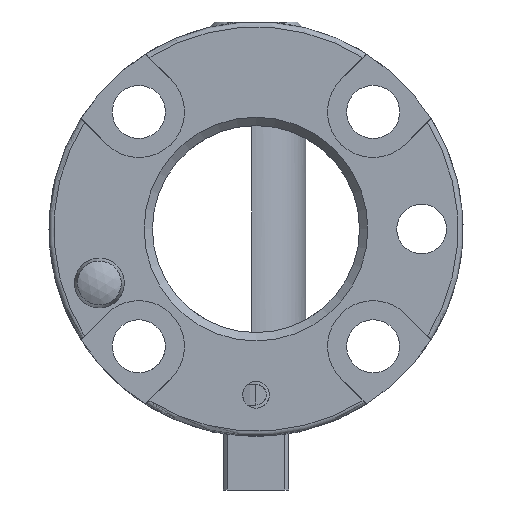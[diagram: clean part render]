
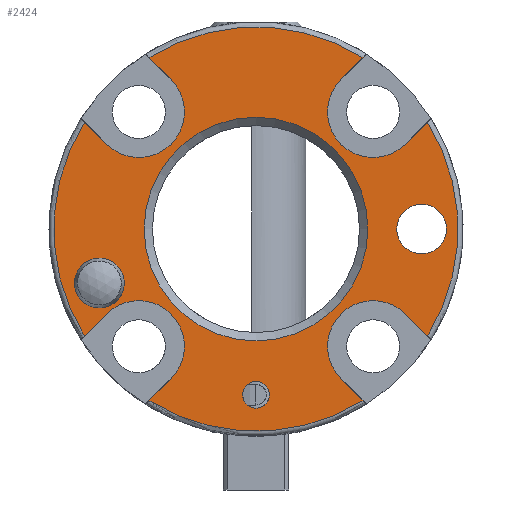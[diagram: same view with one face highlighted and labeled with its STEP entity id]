
A CAD part, front view. The second image highlights one B-rep face of the part: STEP entity #2424.
In plain terms, the highlighted planar face has unit normal (0, -1, 0).
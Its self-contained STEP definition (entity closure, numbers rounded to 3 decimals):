
#84=CARTESIAN_POINT('',(-18.91,8.,-9.511));
#85=VERTEX_POINT('',#84);
#86=CARTESIAN_POINT('',(-18.91,8.,-6.511));
#87=DIRECTION('',(0.0,1.0,0.0));
#88=DIRECTION('',(0.0,0.0,-1.0));
#89=AXIS2_PLACEMENT_3D('',#86,#87,#88);
#90=CIRCLE('',#89,3.);
#91=EDGE_CURVE('',#85,#85,#90,.T.);
#2189=CARTESIAN_POINT('',(-20.698,8.,-12.92));
#2190=VERTEX_POINT('',#2189);
#2204=CARTESIAN_POINT('',(-20.698,8.,12.92));
#2205=VERTEX_POINT('',#2204);
#2206=CARTESIAN_POINT('',(0.,8.0,0.0));
#2207=DIRECTION('',(0.0,1.0,0.0));
#2208=DIRECTION('',(-1.0,0.0,0.0));
#2209=AXIS2_PLACEMENT_3D('',#2206,#2207,#2208);
#2210=CIRCLE('',#2209,24.4);
#2211=EDGE_CURVE('',#2190,#2205,#2210,.T.);
#2236=CARTESIAN_POINT('',(-18.031,8.,10.253));
#2237=VERTEX_POINT('',#2236);
#2238=CARTESIAN_POINT('',(-18.031,8.,10.253));
#2239=DIRECTION('',(-0.707,0.,0.707));
#2240=VECTOR('',#2239,3.772);
#2241=LINE('',#2238,#2240);
#2242=EDGE_CURVE('',#2237,#2205,#2241,.T.);
#2262=CARTESIAN_POINT('',(0.,8.0,0.0));
#2263=DIRECTION('',(0.0,-1.0,0.0));
#2264=DIRECTION('',(0.0,0.0,-1.0));
#2265=AXIS2_PLACEMENT_3D('',#2262,#2263,#2264);
#2266=PLANE('',#2265);
#2267=ORIENTED_EDGE('',*,*,#2211,.F.);
#2268=CARTESIAN_POINT('',(-18.031,8.,-10.253));
#2269=VERTEX_POINT('',#2268);
#2270=CARTESIAN_POINT('',(-20.698,8.,-12.92));
#2271=DIRECTION('',(0.707,0.,0.707));
#2272=VECTOR('',#2271,3.772);
#2273=LINE('',#2270,#2272);
#2274=EDGE_CURVE('',#2190,#2269,#2273,.T.);
#2275=ORIENTED_EDGE('',*,*,#2274,.T.);
#2276=CARTESIAN_POINT('',(-10.253,8.,-18.031));
#2277=VERTEX_POINT('',#2276);
#2278=CARTESIAN_POINT('',(-14.142,8.,-14.142));
#2279=DIRECTION('',(0.0,1.0,0.0));
#2280=DIRECTION('',(0.0,0.0,1.0));
#2281=AXIS2_PLACEMENT_3D('',#2278,#2279,#2280);
#2282=CIRCLE('',#2281,5.5);
#2283=EDGE_CURVE('',#2269,#2277,#2282,.T.);
#2284=ORIENTED_EDGE('',*,*,#2283,.T.);
#2285=CARTESIAN_POINT('',(-12.92,8.,-20.698));
#2286=VERTEX_POINT('',#2285);
#2287=CARTESIAN_POINT('',(-10.253,8.,-18.031));
#2288=DIRECTION('',(-0.707,0.,-0.707));
#2289=VECTOR('',#2288,3.772);
#2290=LINE('',#2287,#2289);
#2291=EDGE_CURVE('',#2277,#2286,#2290,.T.);
#2292=ORIENTED_EDGE('',*,*,#2291,.T.);
#2293=CARTESIAN_POINT('',(12.92,8.,-20.698));
#2294=VERTEX_POINT('',#2293);
#2295=CARTESIAN_POINT('',(0.,8.0,0.0));
#2296=DIRECTION('',(0.0,1.0,0.0));
#2297=DIRECTION('',(0.0,0.0,-1.0));
#2298=AXIS2_PLACEMENT_3D('',#2295,#2296,#2297);
#2299=CIRCLE('',#2298,24.4);
#2300=EDGE_CURVE('',#2294,#2286,#2299,.T.);
#2301=ORIENTED_EDGE('',*,*,#2300,.F.);
#2302=CARTESIAN_POINT('',(10.253,8.,-18.031));
#2303=VERTEX_POINT('',#2302);
#2304=CARTESIAN_POINT('',(12.92,8.,-20.698));
#2305=DIRECTION('',(-0.707,0.,0.707));
#2306=VECTOR('',#2305,3.772);
#2307=LINE('',#2304,#2306);
#2308=EDGE_CURVE('',#2294,#2303,#2307,.T.);
#2309=ORIENTED_EDGE('',*,*,#2308,.T.);
#2310=CARTESIAN_POINT('',(18.031,8.,-10.253));
#2311=VERTEX_POINT('',#2310);
#2312=CARTESIAN_POINT('',(14.142,8.,-14.142));
#2313=DIRECTION('',(0.0,1.0,0.0));
#2314=DIRECTION('',(-1.0,0.0,0.0));
#2315=AXIS2_PLACEMENT_3D('',#2312,#2313,#2314);
#2316=CIRCLE('',#2315,5.5);
#2317=EDGE_CURVE('',#2303,#2311,#2316,.T.);
#2318=ORIENTED_EDGE('',*,*,#2317,.T.);
#2319=CARTESIAN_POINT('',(20.698,8.,-12.92));
#2320=VERTEX_POINT('',#2319);
#2321=CARTESIAN_POINT('',(18.031,8.,-10.253));
#2322=DIRECTION('',(0.707,0.,-0.707));
#2323=VECTOR('',#2322,3.772);
#2324=LINE('',#2321,#2323);
#2325=EDGE_CURVE('',#2311,#2320,#2324,.T.);
#2326=ORIENTED_EDGE('',*,*,#2325,.T.);
#2327=CARTESIAN_POINT('',(20.698,8.,12.92));
#2328=VERTEX_POINT('',#2327);
#2329=CARTESIAN_POINT('',(0.,8.0,0.0));
#2330=DIRECTION('',(0.0,1.0,0.0));
#2331=DIRECTION('',(1.0,0.0,0.0));
#2332=AXIS2_PLACEMENT_3D('',#2329,#2330,#2331);
#2333=CIRCLE('',#2332,24.4);
#2334=EDGE_CURVE('',#2328,#2320,#2333,.T.);
#2335=ORIENTED_EDGE('',*,*,#2334,.F.);
#2336=CARTESIAN_POINT('',(18.031,8.,10.253));
#2337=VERTEX_POINT('',#2336);
#2338=CARTESIAN_POINT('',(20.698,8.,12.92));
#2339=DIRECTION('',(-0.707,0.,-0.707));
#2340=VECTOR('',#2339,3.772);
#2341=LINE('',#2338,#2340);
#2342=EDGE_CURVE('',#2328,#2337,#2341,.T.);
#2343=ORIENTED_EDGE('',*,*,#2342,.T.);
#2344=CARTESIAN_POINT('',(10.253,8.,18.031));
#2345=VERTEX_POINT('',#2344);
#2346=CARTESIAN_POINT('',(14.142,8.,14.142));
#2347=DIRECTION('',(0.0,1.0,0.0));
#2348=DIRECTION('',(0.0,0.0,-1.0));
#2349=AXIS2_PLACEMENT_3D('',#2346,#2347,#2348);
#2350=CIRCLE('',#2349,5.5);
#2351=EDGE_CURVE('',#2337,#2345,#2350,.T.);
#2352=ORIENTED_EDGE('',*,*,#2351,.T.);
#2353=CARTESIAN_POINT('',(12.92,8.,20.698));
#2354=VERTEX_POINT('',#2353);
#2355=CARTESIAN_POINT('',(10.253,8.,18.031));
#2356=DIRECTION('',(0.707,0.0,0.707));
#2357=VECTOR('',#2356,3.772);
#2358=LINE('',#2355,#2357);
#2359=EDGE_CURVE('',#2345,#2354,#2358,.T.);
#2360=ORIENTED_EDGE('',*,*,#2359,.T.);
#2361=CARTESIAN_POINT('',(-12.92,8.,20.698));
#2362=VERTEX_POINT('',#2361);
#2363=CARTESIAN_POINT('',(0.,8.0,0.0));
#2364=DIRECTION('',(0.0,1.0,0.0));
#2365=DIRECTION('',(0.0,0.0,1.0));
#2366=AXIS2_PLACEMENT_3D('',#2363,#2364,#2365);
#2367=CIRCLE('',#2366,24.4);
#2368=EDGE_CURVE('',#2362,#2354,#2367,.T.);
#2369=ORIENTED_EDGE('',*,*,#2368,.F.);
#2370=CARTESIAN_POINT('',(-10.253,8.,18.031));
#2371=VERTEX_POINT('',#2370);
#2372=CARTESIAN_POINT('',(-12.92,8.,20.698));
#2373=DIRECTION('',(0.707,0.,-0.707));
#2374=VECTOR('',#2373,3.772);
#2375=LINE('',#2372,#2374);
#2376=EDGE_CURVE('',#2362,#2371,#2375,.T.);
#2377=ORIENTED_EDGE('',*,*,#2376,.T.);
#2378=CARTESIAN_POINT('',(-14.142,8.,14.142));
#2379=DIRECTION('',(0.0,1.0,0.0));
#2380=DIRECTION('',(1.0,0.0,0.0));
#2381=AXIS2_PLACEMENT_3D('',#2378,#2379,#2380);
#2382=CIRCLE('',#2381,5.5);
#2383=EDGE_CURVE('',#2371,#2237,#2382,.T.);
#2384=ORIENTED_EDGE('',*,*,#2383,.T.);
#2385=ORIENTED_EDGE('',*,*,#2242,.T.);
#2386=EDGE_LOOP('',(#2267,#2275,#2284,#2292,#2301,#2309,#2318,#2326,#2335,#2343,#2352,#2360,#2369,#2377,#2384,#2385));
#2387=FACE_OUTER_BOUND('',#2386,.T.);
#2388=ORIENTED_EDGE('',*,*,#91,.T.);
#2389=EDGE_LOOP('',(#2388));
#2390=FACE_BOUND('',#2389,.T.);
#2391=CARTESIAN_POINT('',(20.,8.,-3.));
#2392=VERTEX_POINT('',#2391);
#2393=CARTESIAN_POINT('',(20.,8.,0.));
#2394=DIRECTION('',(0.0,1.0,0.0));
#2395=DIRECTION('',(0.0,0.0,1.0));
#2396=AXIS2_PLACEMENT_3D('',#2393,#2394,#2395);
#2397=CIRCLE('',#2396,3.);
#2398=EDGE_CURVE('',#2392,#2392,#2397,.T.);
#2399=ORIENTED_EDGE('',*,*,#2398,.T.);
#2400=EDGE_LOOP('',(#2399));
#2401=FACE_BOUND('',#2400,.T.);
#2402=CARTESIAN_POINT('',(0.,8.,-21.621));
#2403=VERTEX_POINT('',#2402);
#2404=CARTESIAN_POINT('',(0.,8.,-20.0));
#2405=DIRECTION('',(0.0,1.0,0.0));
#2406=DIRECTION('',(0.0,0.0,1.0));
#2407=AXIS2_PLACEMENT_3D('',#2404,#2405,#2406);
#2408=CIRCLE('',#2407,1.621);
#2409=EDGE_CURVE('',#2403,#2403,#2408,.T.);
#2410=ORIENTED_EDGE('',*,*,#2409,.T.);
#2411=EDGE_LOOP('',(#2410));
#2412=FACE_BOUND('',#2411,.T.);
#2413=CARTESIAN_POINT('',(0.,8.0,13.5));
#2414=VERTEX_POINT('',#2413);
#2415=CARTESIAN_POINT('',(0.,8.0,0.0));
#2416=DIRECTION('',(0.0,-1.0,0.0));
#2417=DIRECTION('',(0.0,0.0,-1.0));
#2418=AXIS2_PLACEMENT_3D('',#2415,#2416,#2417);
#2419=CIRCLE('',#2418,13.5);
#2420=EDGE_CURVE('',#2414,#2414,#2419,.T.);
#2421=ORIENTED_EDGE('',*,*,#2420,.F.);
#2422=EDGE_LOOP('',(#2421));
#2423=FACE_BOUND('',#2422,.T.);
#2424=ADVANCED_FACE('',(#2387,#2390,#2401,#2412,#2423),#2266,.T.);
